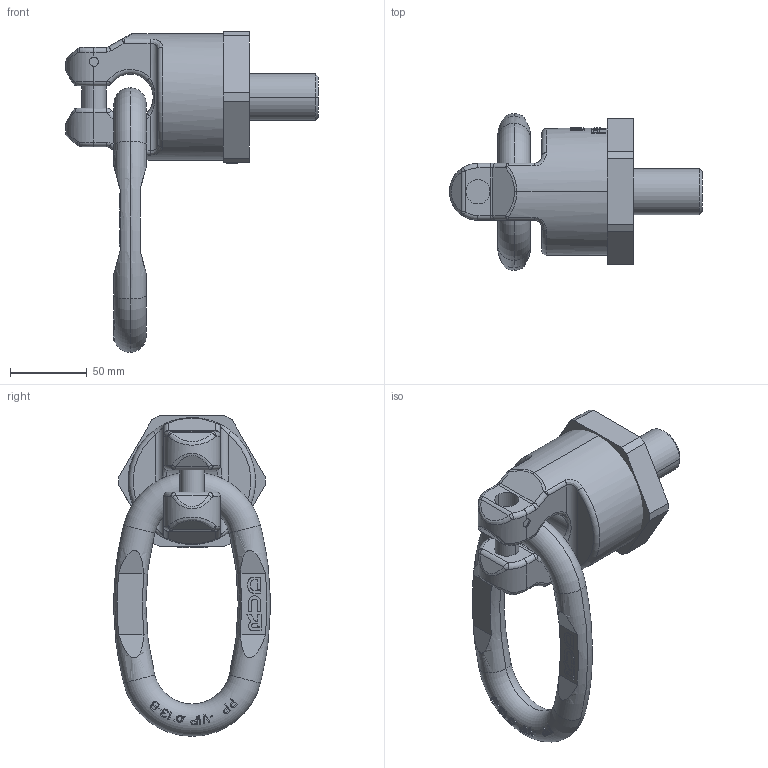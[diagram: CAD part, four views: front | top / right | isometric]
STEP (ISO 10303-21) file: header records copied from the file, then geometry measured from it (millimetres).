
FILE_DESCRIPTION((''),'2;1');
FILE_NAME('001-M31395-P-20_ASM','2018-04-27T',('Anja.Joas'),(''),'PRO/ENGINEER BY PARAMETRIC TECHNOLOGY CORPORATION, 2011490','PRO/ENGINEER BY PARAMETRIC TECHNOLOGY CORPORATION, 2011490','');
FILE_SCHEMA(('CONFIG_CONTROL_DESIGN'));
Length unit declared in the file: millimetre
Products named in the file (4): 001-M31395-P-20; 001-M31395-P-40; 001-M31290-004; 001-M31395-P-20_ASM
Assembly tree (3 placements, depth 2):
  001-M31395-P-20_ASM
    001-M31395-P-20
    001-M31395-P-40
    001-M31290-004
Bounding box: 164.48 x 102 x 208.5 mm (x, y, z)
Volume: 608967.3 mm3; surface area: 82961 mm2
Topology: 3 solids, 3 shells, 912 faces, 2494 edges, 1636 vertices
Faces by surface type: plane 781, cylinder 66, torus 32, bspline 26, sphere 4, cone 2, extrusion 1
Entity records: 30933 total; most frequent: CARTESIAN_POINT 8542, ORIENTED_EDGE 4988, DIRECTION 4053, EDGE_CURVE 2494, VECTOR 1753, LINE 1752, VERTEX_POINT 1636, AXIS2_PLACEMENT_3D 1150
